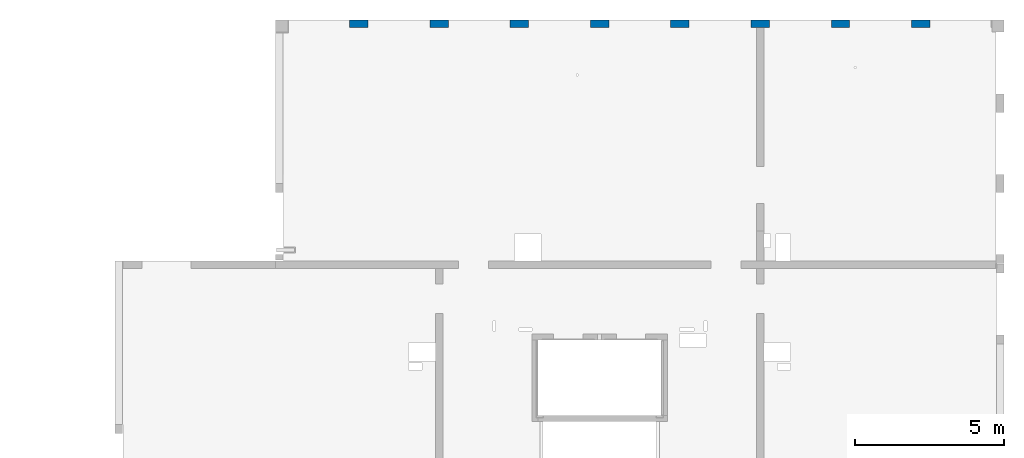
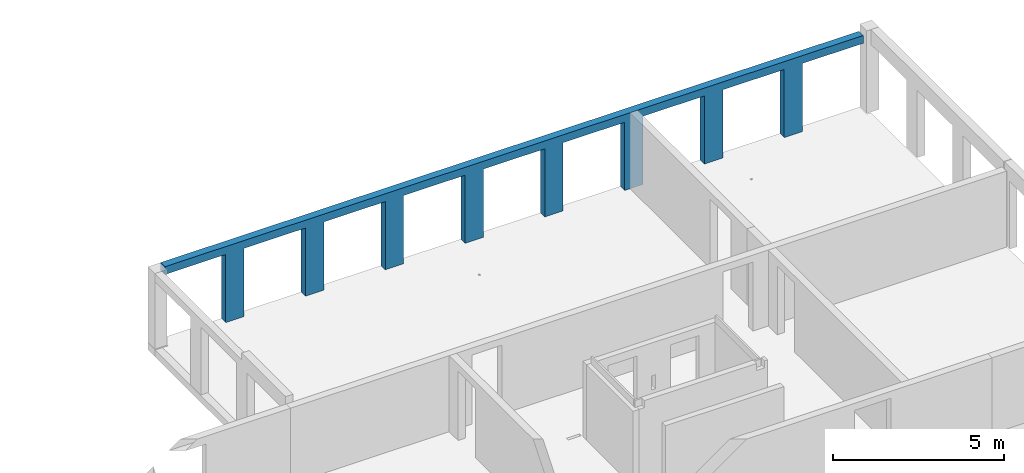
# One storey, part 8 of 12: 1 wall, 9 openings.
"""IFC2X3 building model written with IfcOpenShell, lengths in millimetres."""

from ifc_helpers import new_model, entity, si_unit, converted_unit, derived_unit, direction, frame, frame_2d, origin, place, context, subcontext, project, spatial, rectangle, extrude, material, layer, layer_set, layer_usage, type_object, element, save


model = new_model("IFC2X3")

# Units and contexts
model_context = context("Model", 3, precision=0.01, world=origin(), true_north=direction((6.12303176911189e-17, 1.0)))
body_context = subcontext(model_context, "Body", "Model", "MODEL_VIEW")
ifc_project = project(units=[si_unit("LENGTHUNIT", "METRE", prefix="MILLI"), si_unit("AREAUNIT", "SQUARE_METRE"), si_unit("VOLUMEUNIT", "CUBIC_METRE"), converted_unit("PLANEANGLEUNIT", "DEGREE", entity("IfcRatioMeasure", 0.0174532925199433), si_unit("PLANEANGLEUNIT", "RADIAN"), dimensions=[0, 0, 0, 0, 0, 0, 0]), si_unit("MASSUNIT", "GRAM", prefix="KILO"), derived_unit("MASSDENSITYUNIT", [(si_unit("MASSUNIT", "GRAM", prefix="KILO"), 1), (si_unit("LENGTHUNIT", "METRE"), -3)]), si_unit("TIMEUNIT", "SECOND"), si_unit("FREQUENCYUNIT", "HERTZ"), si_unit("THERMODYNAMICTEMPERATUREUNIT", "DEGREE_CELSIUS"), derived_unit("THERMALTRANSMITTANCEUNIT", [(si_unit("MASSUNIT", "GRAM", prefix="KILO"), 1), (si_unit("THERMODYNAMICTEMPERATUREUNIT", "KELVIN"), -1), (si_unit("TIMEUNIT", "SECOND"), -3)]), derived_unit("VOLUMETRICFLOWRATEUNIT", [(si_unit("LENGTHUNIT", "METRE"), 3), (si_unit("TIMEUNIT", "SECOND"), -1)]), si_unit("ELECTRICCURRENTUNIT", "AMPERE"), si_unit("ELECTRICVOLTAGEUNIT", "VOLT"), si_unit("POWERUNIT", "WATT"), si_unit("FORCEUNIT", "NEWTON", prefix="KILO"), si_unit("ILLUMINANCEUNIT", "LUX"), si_unit("LUMINOUSFLUXUNIT", "LUMEN"), si_unit("LUMINOUSINTENSITYUNIT", "CANDELA"), derived_unit("USERDEFINED", [(si_unit("MASSUNIT", "GRAM", prefix="KILO"), -1), (si_unit("LENGTHUNIT", "METRE"), -2), (si_unit("TIMEUNIT", "SECOND"), 3), (si_unit("LUMINOUSFLUXUNIT", "LUMEN"), 1)]), derived_unit("LINEARVELOCITYUNIT", [(si_unit("LENGTHUNIT", "METRE"), 1), (si_unit("TIMEUNIT", "SECOND"), -1)]), si_unit("PRESSUREUNIT", "PASCAL"), derived_unit("USERDEFINED", [(si_unit("LENGTHUNIT", "METRE"), -2), (si_unit("MASSUNIT", "GRAM", prefix="KILO"), 1), (si_unit("TIMEUNIT", "SECOND"), -2)])], contexts=[model_context])

# Site, building, storey
site_placement = place(None, origin())
site = spatial("IfcSite", under=ifc_project, at=site_placement, Name="Default", CompositionType="ELEMENT")
building_placement = place(site_placement, origin())
building = spatial("IfcBuilding", under=site, at=building_placement, Name="niet gebruiken", CompositionType="ELEMENT")
storey_placement = place(building_placement, frame((0.0, 0.0, 24480.0)))
storey = spatial("IfcBuildingStorey", under=building, at=storey_placement, Name="08 achtste verdieping", CompositionType="ELEMENT", Elevation=24480.0)

# Wall, openings
ifc_material = material(Name="NLRS_f2_beton ihwg")
ifc_layer = layer(ifc_material, 250.0)
ifc_layer_set = layer_set([ifc_layer], Name="Basic Wall:NLRS_21.21_WA_beton ihwg d=250_gen")
ifc_layer_usage = layer_usage(ifc_layer_set, "AXIS2", "NEGATIVE", 125.0)
wall_type = type_object("IfcWallType", Name="Basic Wall:NLRS_21.21_WA_beton ihwg d=250_gen", PredefinedType="STANDARD", material=ifc_layer_set)
wall_placement = place(storey_placement, frame((104970.0, 53131.0, -90.0), z_axis=(0.0, 0.0, 1.0), x_axis=(-1.0, 0.0, 0.0)))
wall = element("IfcWallStandardCase", 1, at=wall_placement, inside=storey, type_object=wall_type, material=ifc_layer_usage, Name="Basic Wall:NLRS_21.21_WA_beton ihwg d=250_gen", ObjectType="Basic Wall:NLRS_21.21_WA_beton ihwg d=250_gen", context=body_context, shape_type="SweptSolid", body=[
    extrude(rectangle(XDim=23640.0000000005, YDim=249.999999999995, at=frame_2d((11820.0000000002, 5.82645043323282e-13), x_axis=(-1.0, 0.0))), origin(), (0.0, 0.0, 1.0), 2720.0),
])
opening_1_placement = place(wall_placement, origin())
element("IfcOpeningElement", 2, at=opening_1_placement, cuts=wall, Name="Basic Wall:NLRS_21.21_WA_beton ihwg d=250_gen", ObjectType="Opening", context=body_context, shape_type="SweptSolid", body=[
    extrude(rectangle(XDim=2440.0, YDim=2080.0, at=frame_2d((8.64019966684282e-12, -2.1600499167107e-12), x_axis=(0.0, 1.0))), frame((22620.0, -1399.0, 1220.0), z_axis=(0.0, 1.0, 0.0), x_axis=(-1.0, 0.0, 0.0)), (0.0, 0.0, 1.0), 3048.0),
])
opening_2_placement = place(wall_placement, origin())
element("IfcOpeningElement", 3, at=opening_2_placement, cuts=wall, Name="Basic Wall:NLRS_21.21_WA_beton ihwg d=250_gen", ObjectType="Opening", context=body_context, shape_type="SweptSolid", body=[
    extrude(rectangle(XDim=2440.0, YDim=2080.0, at=frame_2d((-8.64019966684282e-12, 0.0), x_axis=(0.0, 1.0))), frame((19920.0, -1399.0, 1220.0), z_axis=(0.0, 1.0, 0.0), x_axis=(-1.0, 0.0, 0.0)), (0.0, 0.0, 1.0), 3048.0),
])
opening_3_placement = place(wall_placement, origin())
element("IfcOpeningElement", 4, at=opening_3_placement, cuts=wall, Name="Basic Wall:NLRS_21.21_WA_beton ihwg d=250_gen", ObjectType="Opening", context=body_context, shape_type="SweptSolid", body=[
    extrude(rectangle(XDim=2440.0, YDim=2080.0, at=frame_2d((-8.64019966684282e-12, -2.1600499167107e-12), x_axis=(0.0, 1.0))), frame((17220.0, -1399.0, 1220.0), z_axis=(0.0, 1.0, 0.0), x_axis=(-1.0, 0.0, 0.0)), (0.0, 0.0, 1.0), 3048.0),
])
opening_4_placement = place(wall_placement, origin())
element("IfcOpeningElement", 5, at=opening_4_placement, cuts=wall, Name="Basic Wall:NLRS_21.21_WA_beton ihwg d=250_gen", ObjectType="Opening", context=body_context, shape_type="SweptSolid", body=[
    extrude(rectangle(XDim=2440.0, YDim=2080.0, at=frame_2d((8.64019966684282e-12, 0.0), x_axis=(0.0, 1.0))), frame((14520.0, -1399.0, 1220.0), z_axis=(0.0, 1.0, 0.0), x_axis=(-1.0, 0.0, 0.0)), (0.0, 0.0, 1.0), 3048.0),
])
opening_5_placement = place(wall_placement, origin())
element("IfcOpeningElement", 6, at=opening_5_placement, cuts=wall, Name="Basic Wall:NLRS_21.21_WA_beton ihwg d=250_gen", ObjectType="Opening", context=body_context, shape_type="SweptSolid", body=[
    extrude(rectangle(XDim=2440.0, YDim=2080.0, at=frame_2d((-8.64019966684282e-12, -2.1600499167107e-12), x_axis=(0.0, 1.0))), frame((11820.0, -1399.0, 1220.0), z_axis=(0.0, 1.0, 0.0), x_axis=(-1.0, 0.0, 0.0)), (0.0, 0.0, 1.0), 3048.0),
])
opening_6_placement = place(wall_placement, origin())
element("IfcOpeningElement", 7, at=opening_6_placement, cuts=wall, Name="Basic Wall:NLRS_21.21_WA_beton ihwg d=250_gen", ObjectType="Opening", context=body_context, shape_type="SweptSolid", body=[
    extrude(rectangle(XDim=2440.0, YDim=2080.0, at=frame_2d((-8.64019966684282e-12, 0.0), x_axis=(0.0, 1.0))), frame((9120.0, -1399.0, 1220.0), z_axis=(0.0, 1.0, 0.0), x_axis=(-1.0, 0.0, 0.0)), (0.0, 0.0, 1.0), 3048.0),
])
opening_7_placement = place(wall_placement, origin())
element("IfcOpeningElement", 8, at=opening_7_placement, cuts=wall, Name="Basic Wall:NLRS_21.21_WA_beton ihwg d=250_gen", ObjectType="Opening", context=body_context, shape_type="SweptSolid", body=[
    extrude(rectangle(XDim=2440.0, YDim=2080.0, at=frame_2d((8.64019966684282e-12, -2.1600499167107e-12), x_axis=(0.0, 1.0))), frame((6420.0, -1399.0, 1220.0), z_axis=(0.0, 1.0, 0.0), x_axis=(-1.0, 0.0, 0.0)), (0.0, 0.0, 1.0), 3048.0),
])
opening_8_placement = place(wall_placement, origin())
element("IfcOpeningElement", 9, at=opening_8_placement, cuts=wall, Name="Basic Wall:NLRS_21.21_WA_beton ihwg d=250_gen", ObjectType="Opening", context=body_context, shape_type="SweptSolid", body=[
    extrude(rectangle(XDim=2440.0, YDim=2080.0, at=frame_2d((8.64019966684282e-12, 0.0), x_axis=(0.0, 1.0))), frame((3720.0, -1399.0, 1220.0), z_axis=(0.0, 1.0, 0.0), x_axis=(-1.0, 0.0, 0.0)), (0.0, 0.0, 1.0), 3048.0),
])
opening_9_placement = place(wall_placement, origin())
element("IfcOpeningElement", 10, at=opening_9_placement, cuts=wall, Name="Basic Wall:NLRS_21.21_WA_beton ihwg d=250_gen", ObjectType="Opening", context=body_context, shape_type="SweptSolid", body=[
    extrude(rectangle(XDim=2440.0, YDim=2080.0, at=frame_2d((-8.64019966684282e-12, -2.1600499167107e-12), x_axis=(0.0, 1.0))), frame((1020.0, -1399.0, 1220.0), z_axis=(0.0, 1.0, 0.0), x_axis=(-1.0, 0.0, 0.0)), (0.0, 0.0, 1.0), 3048.0),
])

save(model, "model.ifc")
